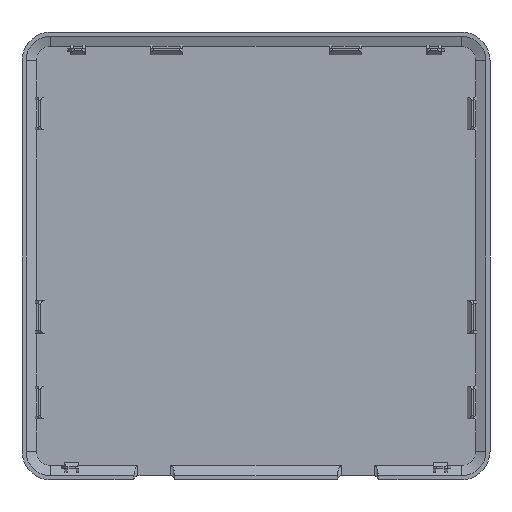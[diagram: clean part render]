
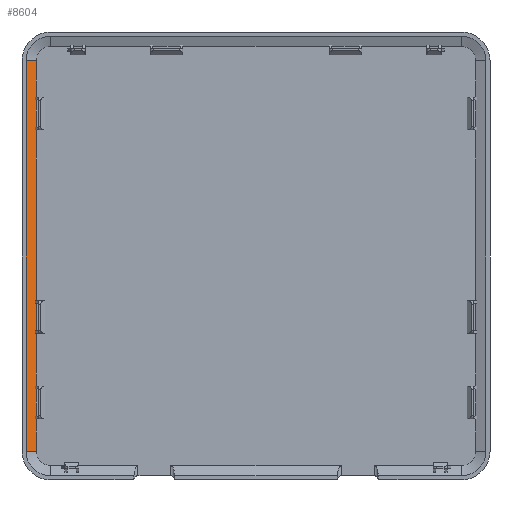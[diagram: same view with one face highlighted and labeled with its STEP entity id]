
A CAD part, front view. The second image highlights one B-rep face of the part: STEP entity #8604.
In plain terms, the highlighted planar face has unit normal (0.371, -0.928, 0).
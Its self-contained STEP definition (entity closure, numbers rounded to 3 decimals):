
#769=DIRECTION('',(0.,0.,1.));
#770=VECTOR('',#769,96.);
#771=CARTESIAN_POINT('',(-56.497,45.6,-48.));
#772=LINE('',#771,#770);
#789=CARTESIAN_POINT('',(-56.497,45.6,-48.));
#1324=DIRECTION('',(0.,0.,1.));
#1325=VECTOR('',#1324,6.8);
#1326=CARTESIAN_POINT('',(-53.997,46.6,-39.4));
#1327=LINE('',#1326,#1325);
#1352=DIRECTION('',(0.,0.,1.));
#1353=VECTOR('',#1352,6.8);
#1354=CARTESIAN_POINT('',(-53.997,46.6,-18.4));
#1355=LINE('',#1354,#1353);
#1380=DIRECTION('',(0.,0.,1.));
#1381=VECTOR('',#1380,6.8);
#1382=CARTESIAN_POINT('',(-53.997,46.6,31.6));
#1383=LINE('',#1382,#1381);
#1848=CARTESIAN_POINT('',(-53.997,46.6,
-48.));
#1874=DIRECTION('',(0.,0.,1.));
#1875=VECTOR('',#1874,13.);
#1876=CARTESIAN_POINT('',(-53.997,46.6,-32.));
#1877=LINE('',#1876,#1875);
#1923=CARTESIAN_POINT('',(-53.997,46.6,48.));
#1957=DIRECTION('',(0.,0.,-1.));
#1958=VECTOR('',#1957,42.);
#1959=CARTESIAN_POINT('',(-53.997,46.6,31.));
#1960=LINE('',#1959,#1958);
#1964=DIRECTION('',(0.,0.,1.));
#1965=VECTOR('',#1964,0.6);
#1966=CARTESIAN_POINT('',(-54.3,46.479,-11.6));
#1967=LINE('',#1966,#1965);
#1971=DIRECTION('',(0.,0.,1.));
#1972=VECTOR('',#1971,0.6);
#1973=CARTESIAN_POINT('',(-54.3,46.479,-19.));
#1974=LINE('',#1973,#1972);
#1978=DIRECTION('',(0.,0.,1.));
#1979=VECTOR('',#1978,0.6);
#1980=CARTESIAN_POINT('',(-54.3,46.479,-32.6));
#1981=LINE('',#1980,#1979);
#1985=DIRECTION('',(0.,0.,1.));
#1986=VECTOR('',#1985,0.6);
#1987=CARTESIAN_POINT('',(-54.3,46.479,-40.));
#1988=LINE('',#1987,#1986);
#1992=DIRECTION('',(0.,0.,-1.));
#1993=VECTOR('',#1992,8.);
#1994=CARTESIAN_POINT('',(-53.997,46.6,-40.));
#1995=LINE('',#1994,#1993);
#1999=DIRECTION('',(-0.928,-0.371,0.));
#2000=VECTOR('',#1999,2.693);
#2001=CARTESIAN_POINT('',(-53.997,46.6,
-48.));
#2002=LINE('',#2001,#2000);
#2006=DIRECTION('',(0.,0.,-1.));
#2007=VECTOR('',#2006,9.);
#2008=CARTESIAN_POINT('',(-53.997,46.6,48.));
#2009=LINE('',#2008,#2007);
#2013=DIRECTION('',(0.,0.,1.));
#2014=VECTOR('',#2013,0.6);
#2015=CARTESIAN_POINT('',(-54.3,46.479,38.4));
#2016=LINE('',#2015,#2014);
#2020=DIRECTION('',(0.,0.,1.));
#2021=VECTOR('',#2020,0.6);
#2022=CARTESIAN_POINT('',(-54.3,46.479,31.));
#2023=LINE('',#2022,#2021);
#2034=DIRECTION('',(0.928,0.371,0.));
#2035=VECTOR('',#2034,0.327);
#2036=CARTESIAN_POINT('',(-54.3,46.479,-11.));
#2037=LINE('',#2036,#2035);
#2387=DIRECTION('',(0.928,0.371,0.));
#2388=VECTOR('',#2387,0.327);
#2389=CARTESIAN_POINT('',(-54.3,46.479,-32.));
#2390=LINE('',#2389,#2388);
#2527=DIRECTION('',(0.928,0.371,0.));
#2528=VECTOR('',#2527,0.327);
#2529=CARTESIAN_POINT('',(-54.3,46.479,-40.));
#2530=LINE('',#2529,#2528);
#2730=DIRECTION('',(0.928,0.371,0.));
#2731=VECTOR('',#2730,0.327);
#2732=CARTESIAN_POINT('',(-54.3,46.479,-19.));
#2733=LINE('',#2732,#2731);
#2821=DIRECTION('',(0.928,0.371,0.));
#2822=VECTOR('',#2821,0.327);
#2823=CARTESIAN_POINT('',(-54.3,46.479,-39.4));
#2824=LINE('',#2823,#2822);
#2828=DIRECTION('',(0.928,0.371,0.));
#2829=VECTOR('',#2828,0.327);
#2830=CARTESIAN_POINT('',(-54.3,46.479,-32.6));
#2831=LINE('',#2830,#2829);
#2842=DIRECTION('',(0.928,0.371,0.));
#2843=VECTOR('',#2842,0.327);
#2844=CARTESIAN_POINT('',(-54.3,46.479,-18.4));
#2845=LINE('',#2844,#2843);
#2849=DIRECTION('',(0.928,0.371,0.));
#2850=VECTOR('',#2849,0.327);
#2851=CARTESIAN_POINT('',(-54.3,46.479,-11.6));
#2852=LINE('',#2851,#2850);
#2870=DIRECTION('',(0.928,0.371,0.));
#2871=VECTOR('',#2870,0.327);
#2872=CARTESIAN_POINT('',(-54.3,46.479,31.));
#2873=LINE('',#2872,#2871);
#2877=DIRECTION('',(0.928,0.371,0.));
#2878=VECTOR('',#2877,0.327);
#2879=CARTESIAN_POINT('',(-54.3,46.479,31.6));
#2880=LINE('',#2879,#2878);
#2891=DIRECTION('',(0.928,0.371,0.));
#2892=VECTOR('',#2891,0.327);
#2893=CARTESIAN_POINT('',(-54.3,46.479,39.));
#2894=LINE('',#2893,#2892);
#2898=DIRECTION('',(0.928,0.371,0.));
#2899=VECTOR('',#2898,0.327);
#2900=CARTESIAN_POINT('',(-54.3,46.479,38.4));
#2901=LINE('',#2900,#2899);
#2912=DIRECTION('',(-0.928,-0.371,0.));
#2913=VECTOR('',#2912,2.693);
#2914=CARTESIAN_POINT('',(-53.997,46.6,48.));
#2915=LINE('',#2914,#2913);
#7033=CARTESIAN_POINT('',(-53.997,46.6,-39.4));
#7034=CARTESIAN_POINT('',(-53.997,46.6,-32.6));
#7035=VERTEX_POINT('',#7033);
#7036=VERTEX_POINT('',#7034);
#7037=CARTESIAN_POINT('',(-53.997,46.6,-32.));
#7038=CARTESIAN_POINT('',(-53.997,46.6,-19.));
#7039=VERTEX_POINT('',#7037);
#7040=VERTEX_POINT('',#7038);
#7041=CARTESIAN_POINT('',(-53.997,46.6,-18.4));
#7042=CARTESIAN_POINT('',(-53.997,46.6,-11.6));
#7043=VERTEX_POINT('',#7041);
#7044=VERTEX_POINT('',#7042);
#7045=CARTESIAN_POINT('',(-53.997,46.6,31.6));
#7046=CARTESIAN_POINT('',(-53.997,46.6,38.4));
#7047=VERTEX_POINT('',#7045);
#7048=VERTEX_POINT('',#7046);
#7049=CARTESIAN_POINT('',(-54.3,46.479,-40.));
#7050=CARTESIAN_POINT('',(-53.997,46.6,-40.));
#7051=VERTEX_POINT('',#7049);
#7052=VERTEX_POINT('',#7050);
#7053=CARTESIAN_POINT('',(-54.3,46.479,-32.));
#7054=VERTEX_POINT('',#7053);
#7055=CARTESIAN_POINT('',(-54.3,46.479,-19.));
#7056=VERTEX_POINT('',#7055);
#7057=CARTESIAN_POINT('',(-54.3,46.479,-11.));
#7058=CARTESIAN_POINT('',(-53.997,46.6,-11.));
#7059=VERTEX_POINT('',#7057);
#7060=VERTEX_POINT('',#7058);
#7061=CARTESIAN_POINT('',(-54.3,46.479,31.));
#7062=CARTESIAN_POINT('',(-53.997,46.6,31.));
#7063=VERTEX_POINT('',#7061);
#7064=VERTEX_POINT('',#7062);
#7065=CARTESIAN_POINT('',(-54.3,46.479,-39.4));
#7066=VERTEX_POINT('',#7065);
#7067=CARTESIAN_POINT('',(-54.3,46.479,-32.6));
#7068=VERTEX_POINT('',#7067);
#7069=CARTESIAN_POINT('',(-54.3,46.479,-18.4));
#7070=VERTEX_POINT('',#7069);
#7071=CARTESIAN_POINT('',(-54.3,46.479,-11.6));
#7072=VERTEX_POINT('',#7071);
#7073=CARTESIAN_POINT('',(-54.3,46.479,39.));
#7074=CARTESIAN_POINT('',(-53.997,46.6,39.));
#7075=VERTEX_POINT('',#7073);
#7076=VERTEX_POINT('',#7074);
#7077=CARTESIAN_POINT('',(-54.3,46.479,31.6));
#7078=VERTEX_POINT('',#7077);
#7079=CARTESIAN_POINT('',(-54.3,46.479,38.4));
#7080=VERTEX_POINT('',#7079);
#7370=VERTEX_POINT('',#1848);
#7371=VERTEX_POINT('',#1923);
#7378=VERTEX_POINT('',#789);
#7379=CARTESIAN_POINT('',(-56.497,45.6,48.));
#7380=VERTEX_POINT('',#7379);
#8549=CARTESIAN_POINT('',(-54.3,46.479,9.));
#8550=DIRECTION('',(-0.371,0.928,0.));
#8551=DIRECTION('',(0.928,0.371,0.));
#8552=AXIS2_PLACEMENT_3D('',#8549,#8550,#8551);
#8553=PLANE('',#8552);
#8554=ORIENTED_EDGE('',*,*,#8526,.T.);
#8556=ORIENTED_EDGE('',*,*,#8555,.F.);
#8558=ORIENTED_EDGE('',*,*,#8557,.F.);
#8560=ORIENTED_EDGE('',*,*,#8559,.T.);
#8561=ORIENTED_EDGE('',*,*,#8288,.F.);
#8563=ORIENTED_EDGE('',*,*,#8562,.F.);
#8565=ORIENTED_EDGE('',*,*,#8564,.F.);
#8567=ORIENTED_EDGE('',*,*,#8566,.T.);
#8568=ORIENTED_EDGE('',*,*,#8518,.F.);
#8570=ORIENTED_EDGE('',*,*,#8569,.F.);
#8572=ORIENTED_EDGE('',*,*,#8571,.F.);
#8574=ORIENTED_EDGE('',*,*,#8573,.T.);
#8575=ORIENTED_EDGE('',*,*,#8272,.F.);
#8577=ORIENTED_EDGE('',*,*,#8576,.F.);
#8579=ORIENTED_EDGE('',*,*,#8578,.F.);
#8581=ORIENTED_EDGE('',*,*,#8580,.T.);
#8582=ORIENTED_EDGE('',*,*,#8510,.T.);
#8584=ORIENTED_EDGE('',*,*,#8583,.T.);
#8585=ORIENTED_EDGE('',*,*,#7780,.T.);
#8587=ORIENTED_EDGE('',*,*,#8586,.F.);
#8588=ORIENTED_EDGE('',*,*,#8534,.T.);
#8590=ORIENTED_EDGE('',*,*,#8589,.F.);
#8592=ORIENTED_EDGE('',*,*,#8591,.F.);
#8594=ORIENTED_EDGE('',*,*,#8593,.T.);
#8595=ORIENTED_EDGE('',*,*,#8304,.F.);
#8597=ORIENTED_EDGE('',*,*,#8596,.F.);
#8599=ORIENTED_EDGE('',*,*,#8598,.F.);
#8601=ORIENTED_EDGE('',*,*,#8600,.T.);
#8602=EDGE_LOOP('',(#8554,#8556,#8558,#8560,#8561,#8563,#8565,#8567,#8568,#8570,
#8572,#8574,#8575,#8577,#8579,#8581,#8582,#8584,#8585,#8587,#8588,#8590,#8592,
#8594,#8595,#8597,#8599,#8601));
#8603=FACE_OUTER_BOUND('',#8602,.F.);
#7780=EDGE_CURVE('',#7378,#7380,#772,.T.);
#8272=EDGE_CURVE('',#7035,#7036,#1327,.T.);
#8288=EDGE_CURVE('',#7043,#7044,#1355,.T.);
#8304=EDGE_CURVE('',#7047,#7048,#1383,.T.);
#8510=EDGE_CURVE('',#7052,#7370,#1995,.T.);
#8518=EDGE_CURVE('',#7039,#7040,#1877,.T.);
#8526=EDGE_CURVE('',#7064,#7060,#1960,.T.);
#8534=EDGE_CURVE('',#7371,#7076,#2009,.T.);
#8555=EDGE_CURVE('',#7059,#7060,#2037,.T.);
#8557=EDGE_CURVE('',#7072,#7059,#1967,.T.);
#8559=EDGE_CURVE('',#7072,#7044,#2852,.T.);
#8562=EDGE_CURVE('',#7070,#7043,#2845,.T.);
#8564=EDGE_CURVE('',#7056,#7070,#1974,.T.);
#8566=EDGE_CURVE('',#7056,#7040,#2733,.T.);
#8569=EDGE_CURVE('',#7054,#7039,#2390,.T.);
#8571=EDGE_CURVE('',#7068,#7054,#1981,.T.);
#8573=EDGE_CURVE('',#7068,#7036,#2831,.T.);
#8576=EDGE_CURVE('',#7066,#7035,#2824,.T.);
#8578=EDGE_CURVE('',#7051,#7066,#1988,.T.);
#8580=EDGE_CURVE('',#7051,#7052,#2530,.T.);
#8583=EDGE_CURVE('',#7370,#7378,#2002,.T.);
#8586=EDGE_CURVE('',#7371,#7380,#2915,.T.);
#8589=EDGE_CURVE('',#7075,#7076,#2894,.T.);
#8591=EDGE_CURVE('',#7080,#7075,#2016,.T.);
#8593=EDGE_CURVE('',#7080,#7048,#2901,.T.);
#8596=EDGE_CURVE('',#7078,#7047,#2880,.T.);
#8598=EDGE_CURVE('',#7063,#7078,#2023,.T.);
#8600=EDGE_CURVE('',#7063,#7064,#2873,.T.);
#8604=ADVANCED_FACE('',(#8603),#8553,.F.);
